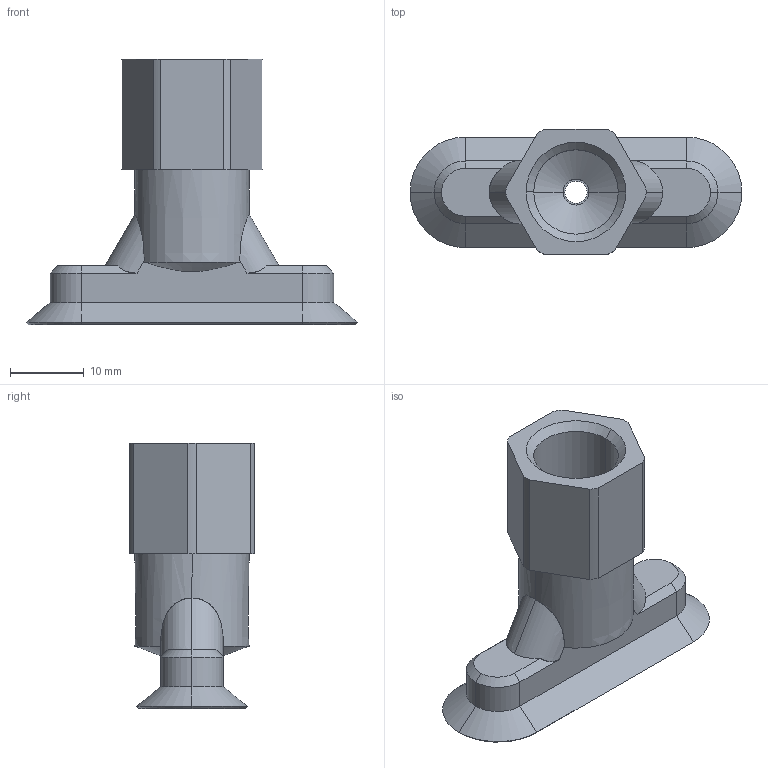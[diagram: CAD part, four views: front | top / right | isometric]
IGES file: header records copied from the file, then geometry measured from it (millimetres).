
Start section: 3D InterOp IGES (v. 2018 1.0.2), Spatial Corp. Copyright (c) 1999-2017.
Global section: file name: schmalz_10_01_05_00422_22kyphioutp7ah1zv2bwbylnr.igs; native system: Spatial Corp.; preprocessor: 3D InterOp ACIS/IGES; author: TraceParts; organization: TraceParts S.A.; date: 20181117.041412; units: millimetre
Bounding box: 45 x 17 x 36 mm (x, y, z)
Surface area: 4488.2 mm2 (no closed solid volume)
Topology: 0 solids, 0 shells, 92 faces, 428 edges, 428 vertices
Faces by surface type: revolution 56, extrusion 36
